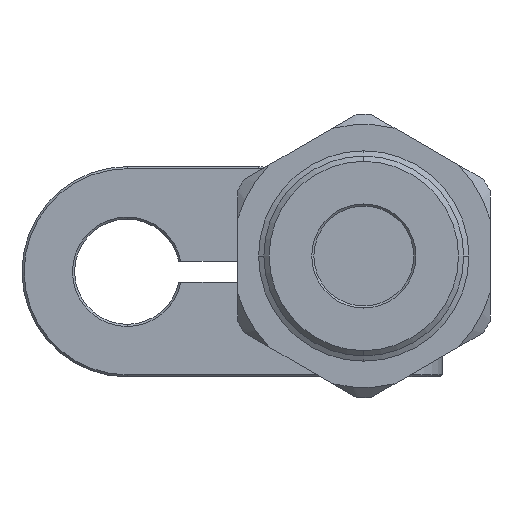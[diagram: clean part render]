
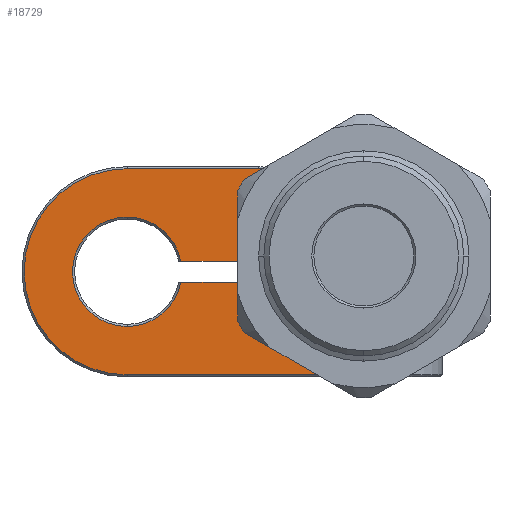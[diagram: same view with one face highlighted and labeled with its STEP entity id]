
A CAD part, front view. The second image highlights one B-rep face of the part: STEP entity #18729.
In plain terms, the highlighted planar face has unit normal (0, -1, 0).
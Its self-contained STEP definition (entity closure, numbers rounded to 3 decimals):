
#53 = LINE ( 'NONE', #16148, #303 ) ;
#303 = VECTOR ( 'NONE', #854, 1000. ) ;
#773 = CARTESIAN_POINT ( 'NONE',  ( -9.62, -19.732, 15.419 ) ) ;
#854 = DIRECTION ( 'NONE',  ( -1., 0., 0. ) ) ;
#1282 = AXIS2_PLACEMENT_3D ( 'NONE', #17066, #17050, #17017 ) ;
#2583 = CARTESIAN_POINT ( 'NONE',  ( -9.62, -19.732, 22.419 ) ) ;
#2756 = AXIS2_PLACEMENT_3D ( 'NONE', #17585, #7638, #19236 ) ;
#2949 = CARTESIAN_POINT ( 'NONE',  ( -9.62, -19.732, 13.419 ) ) ;
#2969 = CARTESIAN_POINT ( 'NONE',  ( -13.92, -19.732, 4.619 ) ) ;
#3181 = PLANE ( 'NONE',  #16965 ) ;
#3726 = ORIENTED_EDGE ( 'NONE', *, *, #14836, .T. ) ;
#3821 = VERTEX_POINT ( 'NONE', #15867 ) ;
#3993 = ORIENTED_EDGE ( 'NONE', *, *, #18717, .T. ) ;
#4195 = VERTEX_POINT ( 'NONE', #12486 ) ;
#4322 = CARTESIAN_POINT ( 'NONE',  ( -23.92, -19.732, 14.419 ) ) ;
#4797 = VERTEX_POINT ( 'NONE', #7713 ) ;
#4831 = DIRECTION ( 'NONE',  ( 1., 0., 0. ) ) ;
#5143 = VERTEX_POINT ( 'NONE', #5159 ) ;
#5159 = CARTESIAN_POINT ( 'NONE',  ( -1.42, -19.732, 12.219 ) ) ;
#5500 = AXIS2_PLACEMENT_3D ( 'NONE', #19070, #9094, #20663 ) ;
#5674 = CARTESIAN_POINT ( 'NONE',  ( -23.92, -19.732, 9.219 ) ) ;
#5992 = CARTESIAN_POINT ( 'NONE',  ( -23.92, -19.732, 14.419 ) ) ;
#6049 = DIRECTION ( 'NONE',  ( 0., 0., 1. ) ) ;
#6147 = ORIENTED_EDGE ( 'NONE', *, *, #19202, .T. ) ;
#6262 = CARTESIAN_POINT ( 'NONE',  ( -13.92, -19.732, 24.219 ) ) ;
#6339 = EDGE_LOOP ( 'NONE', ( #21313, #3726, #16365, #15221, #12277, #6147, #3993, #17476, #8504, #14381, #20848, #21061, #8157 ) ) ;
#6424 = DIRECTION ( 'NONE',  ( 0., -1., 0. ) ) ;
#6441 = DIRECTION ( 'NONE',  ( 1., 0., 0. ) ) ;
#6632 = DIRECTION ( 'NONE',  ( 0., -1., 0. ) ) ;
#6697 = CARTESIAN_POINT ( 'NONE',  ( -18.817, -19.732, 15.419 ) ) ;
#7322 = DIRECTION ( 'NONE',  ( 0., 0., 1. ) ) ;
#7347 = EDGE_CURVE ( 'NONE', #11312, #14316, #20273, .T. ) ;
#7377 = CIRCLE ( 'NONE', #15566, 5.2 ) ;
#7638 = DIRECTION ( 'NONE',  ( 0., 1., 0. ) ) ;
#7709 = DIRECTION ( 'NONE',  ( 0., 0., -1. ) ) ;
#7713 = CARTESIAN_POINT ( 'NONE',  ( -23.92, -19.732, 19.619 ) ) ;
#7792 = EDGE_CURVE ( 'NONE', #4195, #17838, #13557, .T. ) ;
#7887 = LINE ( 'NONE', #16520, #8686 ) ;
#8157 = ORIENTED_EDGE ( 'NONE', *, *, #15524, .T. ) ;
#8400 = FACE_OUTER_BOUND ( 'NONE', #6339, .T. ) ;
#8504 = ORIENTED_EDGE ( 'NONE', *, *, #18496, .T. ) ;
#8513 = CARTESIAN_POINT ( 'NONE',  ( -23.92, -19.732, 24.219 ) ) ;
#8686 = VECTOR ( 'NONE', #4831, 1000. ) ;
#8752 = DIRECTION ( 'NONE',  ( 1., 0., 0. ) ) ;
#9094 = DIRECTION ( 'NONE',  ( 0., 1., 0. ) ) ;
#9890 = CARTESIAN_POINT ( 'NONE',  ( -11.42, -19.732, 24.219 ) ) ;
#9997 = VERTEX_POINT ( 'NONE', #9890 ) ;
#10178 = CIRCLE ( 'NONE', #17513, 1.8 ) ;
#10923 = VECTOR ( 'NONE', #17891, 1000. ) ;
#11312 = VERTEX_POINT ( 'NONE', #773 ) ;
#11517 = LINE ( 'NONE', #6262, #10923 ) ;
#11625 = VERTEX_POINT ( 'NONE', #18934 ) ;
#12277 = ORIENTED_EDGE ( 'NONE', *, *, #14232, .T. ) ;
#12486 = CARTESIAN_POINT ( 'NONE',  ( -18.817, -19.732, 13.419 ) ) ;
#12800 = CIRCLE ( 'NONE', #18158, 9.8 ) ;
#13557 = CIRCLE ( 'NONE', #1282, 5.2 ) ;
#14077 = CIRCLE ( 'NONE', #5500, 5.2 ) ;
#14092 = LINE ( 'NONE', #18937, #14164 ) ;
#14164 = VECTOR ( 'NONE', #7322, 1000. ) ;
#14232 = EDGE_CURVE ( 'NONE', #17838, #4797, #14077, .T. ) ;
#14316 = VERTEX_POINT ( 'NONE', #2583 ) ;
#14357 = VECTOR ( 'NONE', #8752, 1000. ) ;
#14381 = ORIENTED_EDGE ( 'NONE', *, *, #18305, .T. ) ;
#14678 = LINE ( 'NONE', #20327, #14357 ) ;
#14836 = EDGE_CURVE ( 'NONE', #3821, #18552, #19797, .T. ) ;
#15221 = ORIENTED_EDGE ( 'NONE', *, *, #7792, .T. ) ;
#15421 = EDGE_CURVE ( 'NONE', #3821, #5143, #14678, .T. ) ;
#15524 = EDGE_CURVE ( 'NONE', #11625, #5143, #14092, .T. ) ;
#15566 = AXIS2_PLACEMENT_3D ( 'NONE', #5992, #17642, #7709 ) ;
#15867 = CARTESIAN_POINT ( 'NONE',  ( -8.42, -19.732, 12.219 ) ) ;
#16053 = DIRECTION ( 'NONE',  ( 0., -1., 0. ) ) ;
#16066 = CARTESIAN_POINT ( 'NONE',  ( -9.62, -19.732, 14.419 ) ) ;
#16148 = CARTESIAN_POINT ( 'NONE',  ( -13.92, -19.732, 13.419 ) ) ;
#16340 = DIRECTION ( 'NONE',  ( 0., 0., 1. ) ) ;
#16365 = ORIENTED_EDGE ( 'NONE', *, *, #17161, .T. ) ;
#16377 = CARTESIAN_POINT ( 'NONE',  ( -11.42, -19.732, 22.419 ) ) ;
#16520 = CARTESIAN_POINT ( 'NONE',  ( -13.92, -19.732, 15.419 ) ) ;
#16523 = VECTOR ( 'NONE', #6441, 1000. ) ;
#16593 = VERTEX_POINT ( 'NONE', #6697 ) ;
#16677 = VERTEX_POINT ( 'NONE', #8513 ) ;
#16888 = CARTESIAN_POINT ( 'NONE',  ( -23.92, -19.732, 4.619 ) ) ;
#16965 = AXIS2_PLACEMENT_3D ( 'NONE', #19822, #6632, #18236 ) ;
#17017 = DIRECTION ( 'NONE',  ( 0., 0., -1. ) ) ;
#17050 = DIRECTION ( 'NONE',  ( 0., 1., 0. ) ) ;
#17066 = CARTESIAN_POINT ( 'NONE',  ( -23.92, -19.732, 14.419 ) ) ;
#17161 = EDGE_CURVE ( 'NONE', #18552, #4195, #53, .T. ) ;
#17476 = ORIENTED_EDGE ( 'NONE', *, *, #7347, .T. ) ;
#17513 = AXIS2_PLACEMENT_3D ( 'NONE', #16377, #6424, #18028 ) ;
#17533 = EDGE_CURVE ( 'NONE', #19927, #11625, #17971, .T. ) ;
#17585 = CARTESIAN_POINT ( 'NONE',  ( -8.42, -19.732, 13.419 ) ) ;
#17642 = DIRECTION ( 'NONE',  ( 0., 1., 0. ) ) ;
#17838 = VERTEX_POINT ( 'NONE', #5674 ) ;
#17891 = DIRECTION ( 'NONE',  ( -1., 0., 0. ) ) ;
#17971 = LINE ( 'NONE', #2969, #16523 ) ;
#18028 = DIRECTION ( 'NONE',  ( 0., 0., 1. ) ) ;
#18081 = EDGE_CURVE ( 'NONE', #16677, #19927, #12800, .T. ) ;
#18158 = AXIS2_PLACEMENT_3D ( 'NONE', #4322, #16053, #6049 ) ;
#18236 = DIRECTION ( 'NONE',  ( 0., 0., -1. ) ) ;
#18305 = EDGE_CURVE ( 'NONE', #9997, #16677, #11517, .T. ) ;
#18496 = EDGE_CURVE ( 'NONE', #14316, #9997, #10178, .T. ) ;
#18552 = VERTEX_POINT ( 'NONE', #2949 ) ;
#18717 = EDGE_CURVE ( 'NONE', #16593, #11312, #7887, .T. ) ;
#18729 = ADVANCED_FACE ( 'NONE', ( #8400 ), #3181, .T. ) ;
#18934 = CARTESIAN_POINT ( 'NONE',  ( -1.42, -19.732, 4.619 ) ) ;
#18937 = CARTESIAN_POINT ( 'NONE',  ( -1.42, -19.732, 14.419 ) ) ;
#19070 = CARTESIAN_POINT ( 'NONE',  ( -23.92, -19.732, 14.419 ) ) ;
#19202 = EDGE_CURVE ( 'NONE', #4797, #16593, #7377, .T. ) ;
#19236 = DIRECTION ( 'NONE',  ( 0., 0., -1. ) ) ;
#19237 = VECTOR ( 'NONE', #16340, 1000. ) ;
#19797 = CIRCLE ( 'NONE', #2756, 1.2 ) ;
#19822 = CARTESIAN_POINT ( 'NONE',  ( -13.92, -19.732, 14.419 ) ) ;
#19927 = VERTEX_POINT ( 'NONE', #16888 ) ;
#20273 = LINE ( 'NONE', #16066, #19237 ) ;
#20327 = CARTESIAN_POINT ( 'NONE',  ( -13.92, -19.732, 12.219 ) ) ;
#20663 = DIRECTION ( 'NONE',  ( 0., 0., -1. ) ) ;
#20848 = ORIENTED_EDGE ( 'NONE', *, *, #18081, .T. ) ;
#21061 = ORIENTED_EDGE ( 'NONE', *, *, #17533, .T. ) ;
#21313 = ORIENTED_EDGE ( 'NONE', *, *, #15421, .F. ) ;
